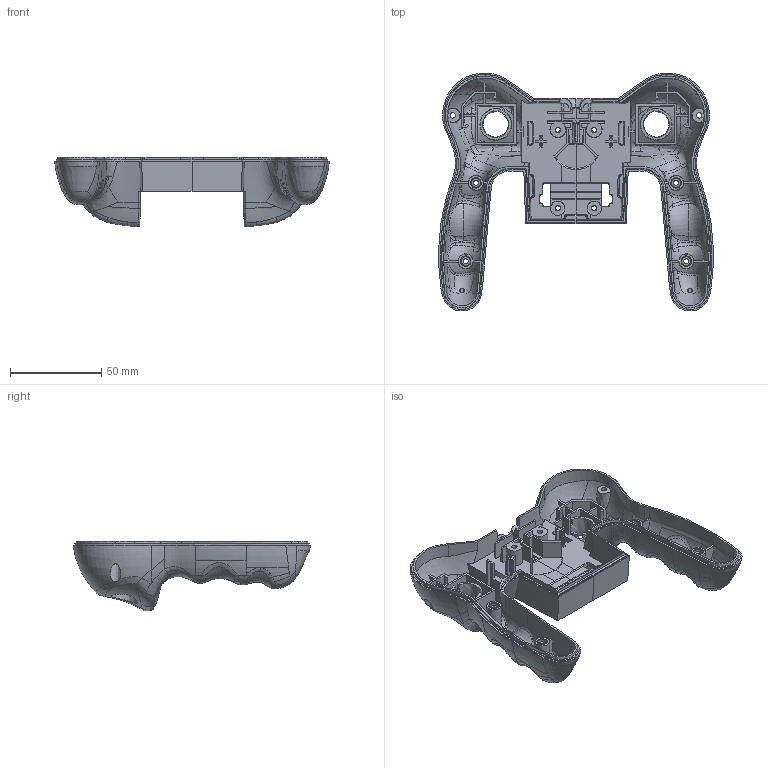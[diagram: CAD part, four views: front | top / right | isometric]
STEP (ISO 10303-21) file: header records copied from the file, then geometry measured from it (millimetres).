
FILE_DESCRIPTION(('STEP AP203'),'2;1');
FILE_NAME('Controller UT_unmodified.stp','2022-03-12T22:25:11',(''),(''),'2014.1.117','THINKDESIGN','');
FILE_SCHEMA(('CONFIG_CONTROL_DESIGN'));
Bounding box: 150.11 x 130.04 x 38.07 mm (x, y, z)
Volume: 58632.4 mm3; surface area: 64808.6 mm2
Topology: 1 solids, 1 shells, 1004 faces, 3097 edges, 2103 vertices
Faces by surface type: bspline 618, plane 342, cylinder 44
Full cylindrical faces by diameter (mm): 2.696 x4, 3 x2
Entity records: 162457 total; most frequent: CARTESIAN_POINT 140323, ORIENTED_EDGE 6194, EDGE_CURVE 3097, VERTEX_POINT 2103, DIRECTION 2016, B_SPLINE_CURVE_WITH_KNOTS 1685, EDGE_LOOP 1050, FACE_OUTER_BOUND 1004
